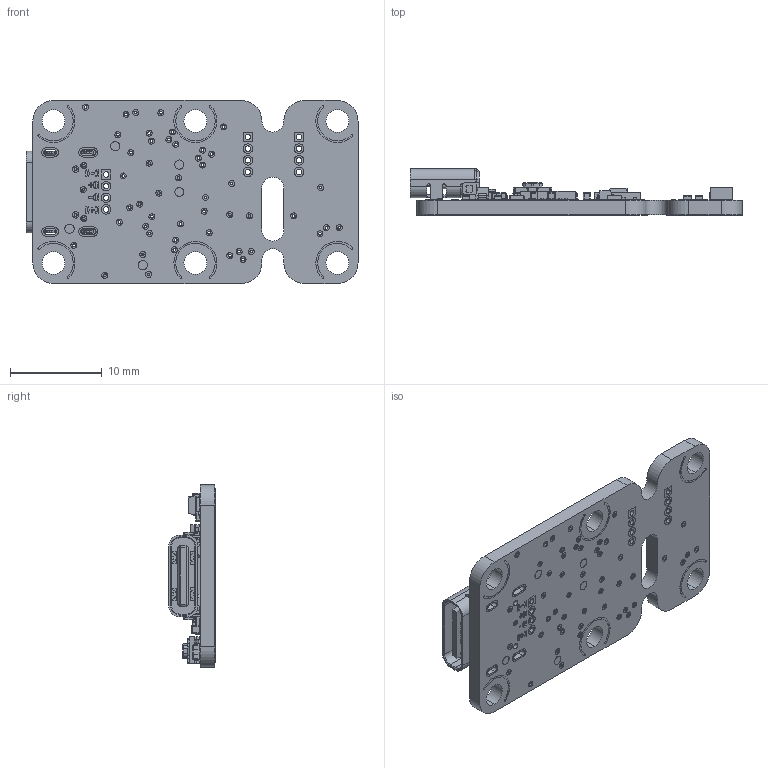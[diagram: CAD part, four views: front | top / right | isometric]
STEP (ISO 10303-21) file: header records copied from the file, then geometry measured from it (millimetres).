
FILE_DESCRIPTION (( 'STEP AP214' ), '1' );
FILE_NAME ('PROXIM1C.STEP', '2025-10-09T13:42:38', ( '' ), ( '' ), 'SwSTEP 2.0', 'SolidWorks 2008', '' );
FILE_SCHEMA (( 'AUTOMOTIVE_DESIGN' ));
Length unit declared in the file: millimetre
Products named in the file (25): FLASH1; C9; C19; D7; PVSS; R4; C2; PCB; R1; R2; C16; C18; R5; U1; YLED; sens2; iSENSE; USB1; R8; R10; REG1; PROXIM1C; SW1; R12; T1
Assembly tree (31 placements, depth 2):
  PVSS
  PROXIM1C
    C9  x6
    USB1
    R4
    R8  x3
    C19
    YLED
    T1
    U1
    R1
    R2
    R12
    C2
    FLASH1
    SW1
    R10  x2
    D7
    C16
    PCB
    R5
    REG1
    sens2
    iSENSE
    C18
Bounding box: 36.25 x 5.07 x 20 mm (x, y, z)
Volume: 1249.5 mm3; surface area: 2704.7 mm2
Topology: 35 solids, 36 shells, 5235 faces, 13781 edges, 8971 vertices
Faces by surface type: plane 3331, cylinder 1284, bspline 515, sphere 80, cone 18, torus 7
Entity records: 216933 total; most frequent: CARTESIAN_POINT 53187, ORIENTED_EDGE 25220, DIRECTION 22679, EDGE_CURVE 12610, LINE 9253, VECTOR 9253, VERTEX_POINT 8307, AXIS2_PLACEMENT_3D 6713
